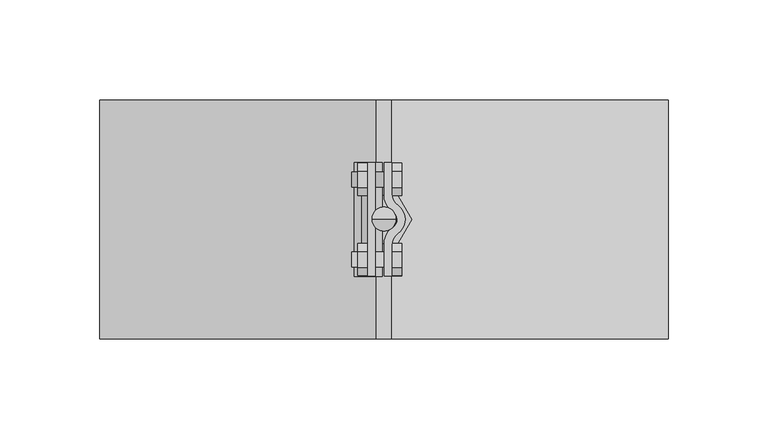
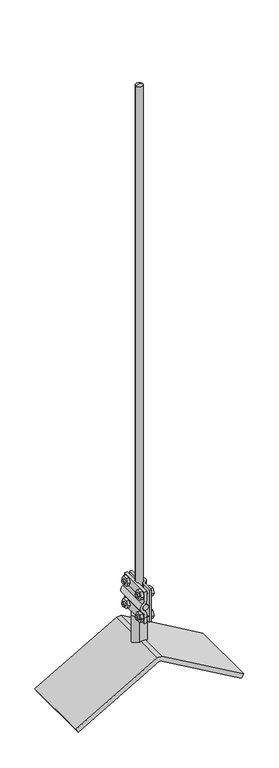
"""IFC4 building model written with IfcOpenShell, lengths in millimetres: proxy geometry, КНС_МолниеприемникКоньковыйСУгловымЗажимом_DKC : NL6100_Алюминий_1м."""

from ifc_helpers import new_model, si_unit, point, frame, frame_2d, origin, origin_with_axes, place, context, project, spatial, polyline, circle_curve, trimmed, segment, composite_curve, outline, extrude, faceted_brep, source, transform, mapped, element, save
from ifc_brep_helpers import plane_surface, cylinder_surface, revolved_surface, advanced_brep


def security_devices_8305dbe8(model_context):
    return source(origin(), model_context, "Body", "SolidModel", [
        extrude(outline(composite_curve([segment(trimmed(circle_curve(frame_2d((10.789241, 12.6812156)), 6.789241), [point((4.0, 12.6812156))], [point((6.8983492, 7.1175159))], True, "CARTESIAN"), True, "CONTINUOUS"), segment(trimmed(circle_curve(frame_2d((1.920819, 0.0)), 8.6853232), [point((6.8983492, 7.1175159))], [point((6.9859541, -7.0554409))], False, "CARTESIAN"), True, "CONTINUOUS"), segment(trimmed(circle_curve(frame_2d((11.1637095, -12.8748131)), 7.1637095), [point((6.9859541, -7.0554409))], [point((4.0, -12.8748131))], True, "CARTESIAN"), True, "CONTINUOUS"), segment(polyline([(4.0, -12.8748131), (4.0, -28.5), (0.0, -28.5), (0.0, -12.5161006)]), True, "CONTINUOUS"), segment(trimmed(circle_curve(frame_2d((10.4743481, -12.5161006)), 10.4743481), [point((0.0, -12.5161006))], [point((4.5644151, -3.8682881))], False, "CARTESIAN"), True, "CONTINUOUS"), segment(trimmed(circle_curve(frame_2d((1.920819, 0.0)), 4.6853232), [point((4.5644151, -3.8682881))], [point((4.4330311, 3.954876))], True, "CARTESIAN"), True, "CONTINUOUS"), segment(trimmed(circle_curve(frame_2d((9.5578104, 12.0226128)), 9.5578104), [point((4.4330311, 3.954876))], [point((0.0, 12.0226128))], False, "CARTESIAN"), True, "CONTINUOUS"), segment(polyline([(0.0, 12.0226128), (0.0, 28.5), (4.0, 28.5), (4.0, 12.6812156)]), True, "CONTINUOUS")], self_intersect=False)), frame((0.0, 0.0, 50.0), z_axis=(0.0, 0.0, 1.0), x_axis=(1.0, 0.0, 0.0)), (0.0, 0.0, 1.0), 57.0),
        extrude(outline(polyline([(28.2458472, 58.3748106), (24.1930385, 51.3551401), (16.0874212, 51.3551401), (12.0346126, 58.3748106), (16.0874212, 65.3944811), (24.1930385, 65.3944811), (28.2458472, 58.3748106)])), frame((-13.0687052, 0.0, 0.0), z_axis=(1.0, 0.0, 0.0), x_axis=(0.0, 1.0, 0.0)), (0.0, 0.0, 1.0), 4.795819),
        extrude(outline(polyline([(-28.2458472, 58.3748106), (-24.1930385, 65.3944811), (-16.0874212, 65.3944811), (-12.0346126, 58.3748106), (-16.0874212, 51.3551401), (-24.1930385, 51.3551401), (-28.2458472, 58.3748106)])), frame((-13.0687052, 0.0, 0.0), z_axis=(1.0, 0.0, 0.0), x_axis=(0.0, 1.0, 0.0)), (0.0, 0.0, 1.0), 4.795819),
        extrude(outline(polyline([(28.2458472, 98.6251894), (24.1930385, 91.6055189), (16.0874212, 91.6055189), (12.0346126, 98.6251894), (16.0874212, 105.6448599), (24.1930385, 105.6448599), (28.2458472, 98.6251894)])), frame((-13.0687052, 0.0, 0.0), z_axis=(1.0, 0.0, 0.0), x_axis=(0.0, 1.0, 0.0)), (0.0, 0.0, 1.0), 4.795819),
        extrude(outline(polyline([(-28.2458472, 98.6251894), (-24.1930385, 105.6448599), (-16.0874212, 105.6448599), (-12.0346126, 98.6251894), (-16.0874212, 91.6055189), (-24.1930385, 91.6055189), (-28.2458472, 98.6251894)])), frame((-13.0687052, 0.0, 0.0), z_axis=(1.0, 0.0, 0.0), x_axis=(0.0, 1.0, 0.0)), (0.0, 0.0, 1.0), 4.795819),
        advanced_brep(
        [(4.0, -16.3433514, 58.34375), (4.0, -23.9475129, 58.34375), (4.0, -20.1454322, 58.34375), (-16.204181, -16.3433514, 58.34375), (-16.204181, -23.9475129, 58.34375), (-16.204181, -20.1454322, 58.34375)],
        [
            (0, 1, circle_curve(frame((4.0, -20.1454322, 58.34375), z_axis=(1.0, 0.0, 0.0), x_axis=(0.0, -1.0, 0.0)), 3.8020807)),
            (1, 2),
            (2, 0),
            (1, 0, circle_curve(frame((4.0, -20.1454322, 58.34375), z_axis=(1.0, 0.0, 0.0), x_axis=(0.0, -1.0, 0.0)), 3.8020807)),
            (3, 4, circle_curve(frame((-16.204181, -20.1454322, 58.34375), z_axis=(1.0, 0.0, 0.0), x_axis=(0.0, -1.0, 0.0)), 3.8020807)),
            (4, 1),
            (0, 3),
            (4, 3, circle_curve(frame((-16.204181, -20.1454322, 58.34375), z_axis=(1.0, 0.0, 0.0), x_axis=(0.0, -1.0, 0.0)), 3.8020807)),
            (5, 4),
            (3, 5),
        ],
        [
            plane_surface(frame((4.0, -20.1454322, 58.34375), z_axis=(1.0, 0.0, 0.0), x_axis=(0.0, -1.0, 0.0))),
            cylinder_surface(frame((-3.0634893, -20.1454322, 58.34375), z_axis=(-1.0, 0.0, 0.0), x_axis=(0.0, -1.0, 0.0)), 3.8020807),
            plane_surface(frame((-16.204181, -20.1454322, 58.34375), z_axis=(-1.0, 0.0, 0.0), x_axis=(0.0, -1.0, 0.0))),
        ],
        [
            (0, [[1, 2, 3]]),
            (0, [[4, -3, -2]]),
            (1, [[5, 6, -1, 7]]),
            (1, [[8, -7, -4, -6]]),
            (2, [[9, -5, 10]]),
            (2, [[-10, -8, -9]]),
        ],
    ),
        advanced_brep(
        [(4.0, 20.0282447, 58.34375), (4.0, 23.7994972, 58.34375), (4.0, 16.2569922, 58.34375), (-16.204181, 23.7994972, 58.34375), (-16.204181, 16.2569922, 58.34375), (-16.204181, 20.0282447, 58.34375)],
        [
            (0, 1),
            (1, 2, circle_curve(frame((4.0, 20.0282447, 58.34375), z_axis=(1.0, 0.0, 0.0), x_axis=(0.0, 1.0, 0.0)), 3.7712525)),
            (2, 0),
            (2, 1, circle_curve(frame((4.0, 20.0282447, 58.34375), z_axis=(1.0, 0.0, 0.0), x_axis=(0.0, 1.0, 0.0)), 3.7712525)),
            (1, 3),
            (3, 4, circle_curve(frame((-16.204181, 20.0282447, 58.34375), z_axis=(1.0, 0.0, 0.0), x_axis=(0.0, 1.0, 0.0)), 3.7712525)),
            (4, 2),
            (4, 3, circle_curve(frame((-16.204181, 20.0282447, 58.34375), z_axis=(1.0, 0.0, 0.0), x_axis=(0.0, 1.0, 0.0)), 3.7712525)),
            (3, 5),
            (5, 4),
        ],
        [
            plane_surface(frame((4.0, 20.0282447, 58.34375), z_axis=(1.0, 0.0, 0.0), x_axis=(0.0, 1.0, 0.0))),
            cylinder_surface(frame((-3.0634893, 20.0282447, 58.34375), z_axis=(1.0, 0.0, 0.0), x_axis=(0.0, 1.0, 0.0)), 3.7712525),
            plane_surface(frame((-16.204181, 20.0282447, 58.34375), z_axis=(-1.0, 0.0, 0.0), x_axis=(0.0, 1.0, 0.0))),
        ],
        [
            (0, [[1, 2, 3]]),
            (0, [[-3, 4, -1]]),
            (1, [[-2, 5, 6, 7]]),
            (1, [[-4, -7, 8, -5]]),
            (2, [[-6, 9, 10]]),
            (2, [[-8, -10, -9]]),
        ],
    ),
        advanced_brep(
        [(4.0, -20.1454322, 98.65625), (4.0, -23.9475129, 98.65625), (4.0, -16.3433514, 98.65625), (-16.204181, -23.9475129, 98.65625), (-16.204181, -16.3433514, 98.65625), (-16.204181, -20.1454322, 98.65625)],
        [
            (0, 1),
            (1, 2, circle_curve(frame((4.0, -20.1454322, 98.65625), z_axis=(1.0, 0.0, 0.0), x_axis=(0.0, -1.0, 0.0)), 3.8020807)),
            (2, 0),
            (2, 1, circle_curve(frame((4.0, -20.1454322, 98.65625), z_axis=(1.0, 0.0, 0.0), x_axis=(0.0, -1.0, 0.0)), 3.8020807)),
            (1, 3),
            (3, 4, circle_curve(frame((-16.204181, -20.1454322, 98.65625), z_axis=(1.0, 0.0, 0.0), x_axis=(0.0, -1.0, 0.0)), 3.8020807)),
            (4, 2),
            (4, 3, circle_curve(frame((-16.204181, -20.1454322, 98.65625), z_axis=(1.0, 0.0, 0.0), x_axis=(0.0, -1.0, 0.0)), 3.8020807)),
            (3, 5),
            (5, 4),
        ],
        [
            plane_surface(frame((4.0, -20.1454322, 98.65625), z_axis=(1.0, 0.0, 0.0), x_axis=(0.0, -1.0, 0.0))),
            cylinder_surface(frame((-3.0634893, -20.1454322, 98.65625), z_axis=(1.0, 0.0, 0.0), x_axis=(0.0, -1.0, 0.0)), 3.8020807),
            plane_surface(frame((-16.204181, -20.1454322, 98.65625), z_axis=(-1.0, 0.0, 0.0), x_axis=(0.0, -1.0, 0.0))),
        ],
        [
            (0, [[1, 2, 3]]),
            (0, [[-3, 4, -1]]),
            (1, [[-2, 5, 6, 7]]),
            (1, [[-4, -7, 8, -5]]),
            (2, [[-6, 9, 10]]),
            (2, [[-8, -10, -9]]),
        ],
    ),
        advanced_brep(
        [(4.0, 16.2569922, 98.65625), (4.0, 23.7994972, 98.65625), (4.0, 20.0282447, 98.65625), (-16.204181, 16.2569922, 98.65625), (-16.204181, 23.7994972, 98.65625), (-16.204181, 20.0282447, 98.65625)],
        [
            (0, 1, circle_curve(frame((4.0, 20.0282447, 98.65625), z_axis=(1.0, 0.0, 0.0), x_axis=(0.0, 1.0, 0.0)), 3.7712525)),
            (1, 2),
            (2, 0),
            (1, 0, circle_curve(frame((4.0, 20.0282447, 98.65625), z_axis=(1.0, 0.0, 0.0), x_axis=(0.0, 1.0, 0.0)), 3.7712525)),
            (3, 4, circle_curve(frame((-16.204181, 20.0282447, 98.65625), z_axis=(1.0, 0.0, 0.0), x_axis=(0.0, 1.0, 0.0)), 3.7712525)),
            (4, 1),
            (0, 3),
            (4, 3, circle_curve(frame((-16.204181, 20.0282447, 98.65625), z_axis=(1.0, 0.0, 0.0), x_axis=(0.0, 1.0, 0.0)), 3.7712525)),
            (5, 4),
            (3, 5),
        ],
        [
            plane_surface(frame((4.0, 20.0282447, 98.65625), z_axis=(1.0, 0.0, 0.0), x_axis=(0.0, 1.0, 0.0))),
            cylinder_surface(frame((-3.0634893, 20.0282447, 98.65625), z_axis=(-1.0, 0.0, 0.0), x_axis=(0.0, 1.0, 0.0)), 3.7712525),
            plane_surface(frame((-16.204181, 20.0282447, 98.65625), z_axis=(-1.0, 0.0, 0.0), x_axis=(0.0, 1.0, 0.0))),
        ],
        [
            (0, [[1, 2, 3]]),
            (0, [[4, -3, -2]]),
            (1, [[5, 6, -1, 7]]),
            (1, [[8, -7, -4, -6]]),
            (2, [[9, -5, 10]]),
            (2, [[-10, -8, -9]]),
        ],
    ),
        extrude(outline(polyline([(28.2458472, 58.3748106), (24.1930385, 51.3551401), (16.0874212, 51.3551401), (12.0346126, 58.3748106), (16.0874212, 65.3944811), (24.1930385, 65.3944811), (28.2458472, 58.3748106)])), frame((4.0, 0.0, 0.0), z_axis=(1.0, 0.0, 0.0), x_axis=(0.0, 1.0, 0.0)), (0.0, 0.0, 1.0), 4.795819),
        extrude(outline(polyline([(-28.2458472, 58.3748106), (-24.1930385, 65.3944811), (-16.0874212, 65.3944811), (-12.0346126, 58.3748106), (-16.0874212, 51.3551401), (-24.1930385, 51.3551401), (-28.2458472, 58.3748106)])), frame((4.0, 0.0, 0.0), z_axis=(1.0, 0.0, 0.0), x_axis=(0.0, 1.0, 0.0)), (0.0, 0.0, 1.0), 4.795819),
        extrude(outline(polyline([(28.2458472, 98.6251894), (24.1930385, 91.6055189), (16.0874212, 91.6055189), (12.0346126, 98.6251894), (16.0874212, 105.6448599), (24.1930385, 105.6448599), (28.2458472, 98.6251894)])), frame((4.0, 0.0, 0.0), z_axis=(1.0, 0.0, 0.0), x_axis=(0.0, 1.0, 0.0)), (0.0, 0.0, 1.0), 4.795819),
        extrude(outline(polyline([(-28.2458472, 98.6251894), (-24.1930385, 105.6448599), (-16.0874212, 105.6448599), (-12.0346126, 98.6251894), (-16.0874212, 91.6055189), (-24.1930385, 91.6055189), (-28.2458472, 98.6251894)])), frame((4.0, 0.0, 0.0), z_axis=(1.0, 0.0, 0.0), x_axis=(0.0, 1.0, 0.0)), (0.0, 0.0, 1.0), 4.795819),
        extrude(outline(composite_curve([segment(trimmed(circle_curve(frame_2d((91.1812156, -15.0621272)), 6.789241), [point((91.1812156, -8.2728862))], [point((85.6175159, -11.1712355))], True, "CARTESIAN"), True, "CONTINUOUS"), segment(trimmed(circle_curve(frame_2d((78.5, -6.1937052)), 8.6853232), [point((85.6175159, -11.1712355))], [point((71.4445591, -11.2588403))], False, "CARTESIAN"), True, "CONTINUOUS"), segment(trimmed(circle_curve(frame_2d((65.6251869, -15.4365957)), 7.1637095), [point((71.4445591, -11.2588403))], [point((65.6251869, -8.2728862))], True, "CARTESIAN"), True, "CONTINUOUS"), segment(polyline([(65.6251869, -8.2728862), (50.0, -8.2728862), (50.0, -4.2728862), (65.9838994, -4.2728862)]), True, "CONTINUOUS"), segment(trimmed(circle_curve(frame_2d((65.9838994, -14.7472343)), 10.4743481), [point((65.9838994, -4.2728862))], [point((74.6317119, -8.8373014))], False, "CARTESIAN"), True, "CONTINUOUS"), segment(trimmed(circle_curve(frame_2d((78.5, -6.1937052)), 4.6853232), [point((74.6317119, -8.8373014))], [point((82.454876, -8.7059174))], True, "CARTESIAN"), True, "CONTINUOUS"), segment(trimmed(circle_curve(frame_2d((90.5226128, -13.8306966)), 9.5578104), [point((82.454876, -8.7059174))], [point((90.5226128, -4.2728862))], False, "CARTESIAN"), True, "CONTINUOUS"), segment(polyline([(90.5226128, -4.2728862), (107.0, -4.2728862), (107.0, -8.2728862), (91.1812156, -8.2728862)]), True, "CONTINUOUS")], self_intersect=False)), frame((0.0, -28.5, 0.0), z_axis=(0.0, 1.0, 0.0), x_axis=(0.0, 0.0, 1.0)), (0.0, 0.0, 1.0), 57.0),
        advanced_brep(
        [(-6.0, 0.0, 0.0), (6.0, 0.0, 0.0), (6.0, 0.0, 996.5358984), (-6.0, 0.0, 996.5358984), (0.0, 0.0, 1000.0)],
        [
            (0, 1, circle_curve(frame((0.0, 0.0, 0.0), z_axis=(0.0, 0.0, -1.0), x_axis=(1.0, 0.0, 0.0)), 6.0)),
            (1, 0, circle_curve(frame((0.0, 0.0, 0.0), z_axis=(0.0, 0.0, -1.0), x_axis=(1.0, 0.0, 0.0)), 6.0)),
            (1, 2),
            (2, 3, circle_curve(frame((0.0, 0.0, 996.5358984), z_axis=(0.0, 0.0, -1.0), x_axis=(1.0, 0.0, 0.0)), 6.0)),
            (3, 0),
            (3, 2, circle_curve(frame((0.0, 0.0, 996.5358984), z_axis=(0.0, 0.0, -1.0), x_axis=(1.0, 0.0, 0.0)), 6.0)),
            (3, 4),
            (4, 2),
        ],
        [
            plane_surface(frame((6.0, 0.0, 0.0), z_axis=(0.0, 0.0, -1.0), x_axis=(0.0, -1.0, 0.0))),
            cylinder_surface(origin_with_axes(), 6.0),
            revolved_surface(polyline([(12.9903811, 0.0, 992.5), (0.0, 0.0, 1000.0)]), (0.0, 0.0, 3938.9550208), (0.0, 0.0, 1.0)),
        ],
        [
            (0, [[1, 2]]),
            (1, [[-2, 3, 4, 5]]),
            (1, [[-1, -5, 6, -3]]),
            (2, [[7, 8, -6]]),
            (2, [[-7, -4, -8]]),
        ],
    ),
        extrude(outline(composite_curve([segment(trimmed(circle_curve(frame_2d((78.5786753, -5.8783678)), 5.0), [point((78.5786753, -10.8783678))], [point((78.5786753, -0.8783678))], False, "CARTESIAN"), True, "CONTINUOUS"), segment(trimmed(circle_curve(frame_2d((78.5786753, -5.8783678)), 5.0), [point((78.5786753, -0.8783678))], [point((78.5786753, -10.8783678))], False, "CARTESIAN"), True, "CONTINUOUS")], self_intersect=False)), frame((0.0, -28.5, 0.0), z_axis=(0.0, 1.0, 0.0), x_axis=(0.0, 0.0, 1.0)), (0.0, 0.0, 1.0), 57.0),
        faceted_brep([(-138.5640646, -60.0, -80.0), (0.0, -60.0, 0.0), (138.5640646, -60.0, -80.0), (142.5640646, -60.0, -73.0717968), (4.0, -60.0, 6.9282032), (-4.0, -60.0, 6.9282032), (-142.5640646, -60.0, -73.0717968), (-138.5640646, 60.0, -80.0), (-142.5640646, 60.0, -73.0717968), (-4.0, 60.0, 6.9282032), (4.0, 60.0, 6.9282032), (142.5640646, 60.0, -73.0717968), (138.5640646, 60.0, -80.0), (0.0, 60.0, 0.0), (0.0, 12.0, 0.0), (0.0, -12.0, 0.0), (4.0, 12.0, 6.9282032), (6.9282032, 12.0, 5.2376043), (13.8564065, 0.0, 1.2376043), (6.9282032, -12.0, 5.2376043), (4.0, -12.0, 6.9282032), (-4.0, -12.0, 6.9282032), (-4.0, 12.0, 6.9282032), (-6.9282032, -12.0, 5.2376043), (-13.8564065, 0.0, 1.2376043), (-6.9282032, 12.0, 5.2376043), (-13.8564065, 0.0, 50.0), (-6.9282032, -12.0, 50.0), (6.9282032, -12.0, 50.0), (13.8564065, 0.0, 50.0), (6.9282032, 12.0, 50.0), (-6.9282032, 12.0, 50.0)], [[[0, 1, 2, 3, 4, 5, 6]], [[7, 8, 9, 10, 11, 12, 13]], [[1, 0, 7, 13, 14, 15]], [[2, 1, 15, 14, 13, 12]], [[3, 2, 12, 11]], [[4, 3, 11, 10, 16, 17, 18, 19, 20]], [[5, 4, 20, 21]], [[10, 9, 22, 16]], [[6, 5, 21, 23, 24, 25, 22, 9, 8]], [[0, 6, 8, 7]], [[26, 27, 28, 29, 30, 31]], [[27, 26, 24, 23]], [[28, 27, 23, 21, 20, 19]], [[29, 28, 19, 18]], [[30, 29, 18, 17]], [[31, 30, 17, 16, 22, 25]], [[26, 31, 25, 24]]]),
    ])


if __name__ == "__main__":
    model = new_model("IFC4")
    model_context = context("Model", 3, world=origin())
    ifc_project = project(units=[si_unit("LENGTHUNIT", "METRE", prefix="MILLI")], contexts=[model_context])
    site = spatial("IfcSite", under=ifc_project)
    building = spatial("IfcBuilding", under=site)
    placement = place(None, origin())
    security_devices_shape = security_devices_8305dbe8(model_context)
    element("IfcBuildingElementProxy", 1, Name="КНС_МолниеприемникКоньковыйСУгловымЗажимом_DKC : NL6100_Алюминий_1м", ObjectType="КНС_МолниеприемникКоньковыйСУгловымЗажимом_DKC : NL6100_Алюминий_1м", at=placement, inside=building, context=model_context, shape_type="MappedRepresentation", body=[
        mapped(security_devices_shape, transform((0.0, 0.0, 0.0), x_axis=(1.0, 0.0, 0.0), y_axis=(0.0, 1.0, 0.0), z_axis=(0.0, 0.0, 1.0))),
    ])
    save(model, "model.ifc")
